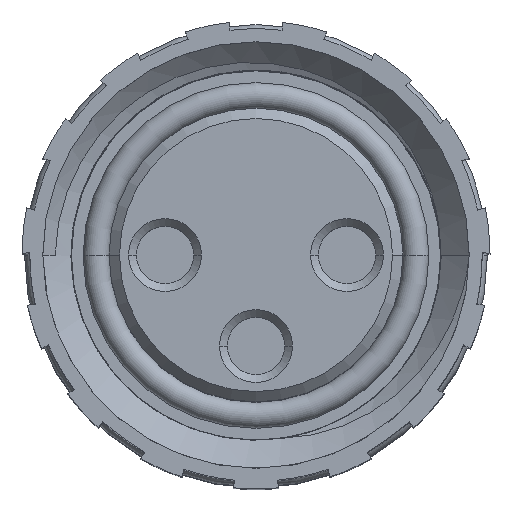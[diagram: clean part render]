
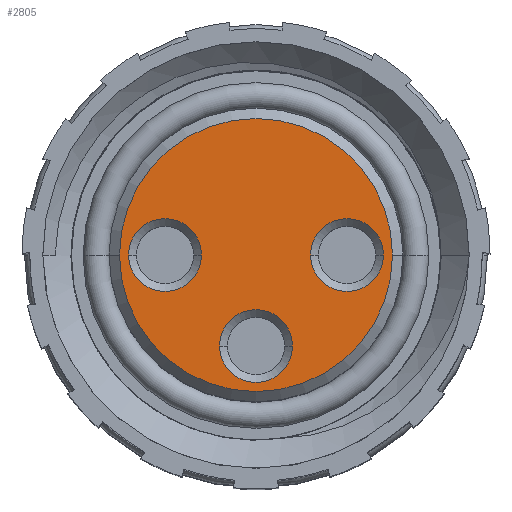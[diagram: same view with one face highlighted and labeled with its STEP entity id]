
A CAD part, top view. The second image highlights one B-rep face of the part: STEP entity #2805.
In plain terms, the highlighted planar face has unit normal (0, 0, 1).
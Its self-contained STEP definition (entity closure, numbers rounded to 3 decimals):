
#83 = FACE_OUTER_BOUND ( 'NONE', #3703, .T. ) ;
#159 = DIRECTION ( 'NONE',  ( 0., 0., 1. ) ) ;
#459 = CARTESIAN_POINT ( 'NONE',  ( 2.45, 0., -0.903 ) ) ;
#500 = CARTESIAN_POINT ( 'NONE',  ( 1.75, 0., -0.903 ) ) ;
#643 = CARTESIAN_POINT ( 'NONE',  ( 0.7, -1.75, -0.903 ) ) ;
#816 = AXIS2_PLACEMENT_3D ( 'NONE', #4985, #4442, #1674 ) ;
#950 = AXIS2_PLACEMENT_3D ( 'NONE', #500, #5825, #6675 ) ;
#986 = DIRECTION ( 'NONE',  ( -1., 0., 0. ) ) ;
#1258 = EDGE_LOOP ( 'NONE', ( #5470, #5697 ) ) ;
#1344 = DIRECTION ( 'NONE',  ( 0., 0., -1. ) ) ;
#1359 = VERTEX_POINT ( 'NONE', #6286 ) ;
#1633 = DIRECTION ( 'NONE',  ( 0., 0., 1. ) ) ;
#1674 = DIRECTION ( 'NONE',  ( -1., 0., 0. ) ) ;
#1795 = AXIS2_PLACEMENT_3D ( 'NONE', #1887, #7269, #5953 ) ;
#1887 = CARTESIAN_POINT ( 'NONE',  ( -1.75, 0., -0.903 ) ) ;
#2147 = CARTESIAN_POINT ( 'NONE',  ( 0., 0., -0.903 ) ) ;
#2263 = CARTESIAN_POINT ( 'NONE',  ( -0.7, -1.75, -0.903 ) ) ;
#2403 = CARTESIAN_POINT ( 'NONE',  ( 0., -1.75, -0.903 ) ) ;
#2683 = CARTESIAN_POINT ( 'NONE',  ( 0., 0., -0.903 ) ) ;
#2784 = ORIENTED_EDGE ( 'NONE', *, *, #4421, .F. ) ;
#2805 = ADVANCED_FACE ( 'NONE', ( #83, #4690, #7248, #7304 ), #7384, .F. ) ;
#3072 = CARTESIAN_POINT ( 'NONE',  ( 0., -1.75, -0.903 ) ) ;
#3183 = CIRCLE ( 'NONE', #4469, 2.625 ) ;
#3638 = DIRECTION ( 'NONE',  ( -1., 0., 0. ) ) ;
#3703 = EDGE_LOOP ( 'NONE', ( #7111, #7265 ) ) ;
#3873 = EDGE_CURVE ( 'NONE', #6400, #5490, #7423, .T. ) ;
#3879 = CARTESIAN_POINT ( 'NONE',  ( 0., 0., -0.903 ) ) ;
#3883 = AXIS2_PLACEMENT_3D ( 'NONE', #3072, #1633, #7669 ) ;
#3926 = CARTESIAN_POINT ( 'NONE',  ( 1.05, 0., -0.903 ) ) ;
#3927 = VERTEX_POINT ( 'NONE', #643 ) ;
#4175 = CIRCLE ( 'NONE', #3883, 0.7 ) ;
#4182 = AXIS2_PLACEMENT_3D ( 'NONE', #2147, #159, #8183 ) ;
#4321 = CIRCLE ( 'NONE', #1795, 0.7 ) ;
#4421 = EDGE_CURVE ( 'NONE', #4719, #8451, #4321, .T. ) ;
#4442 = DIRECTION ( 'NONE',  ( 0., 0., 1. ) ) ;
#4469 = AXIS2_PLACEMENT_3D ( 'NONE', #2683, #5501, #6085 ) ;
#4527 = EDGE_CURVE ( 'NONE', #1359, #5791, #3183, .T. ) ;
#4690 = FACE_BOUND ( 'NONE', #7313, .T. ) ;
#4705 = AXIS2_PLACEMENT_3D ( 'NONE', #3879, #1344, #6724 ) ;
#4719 = VERTEX_POINT ( 'NONE', #7870 ) ;
#4907 = EDGE_CURVE ( 'NONE', #3927, #6319, #4175, .T. ) ;
#4963 = EDGE_CURVE ( 'NONE', #8451, #4719, #8250, .T. ) ;
#4985 = CARTESIAN_POINT ( 'NONE',  ( 1.75, 0., -0.903 ) ) ;
#5102 = DIRECTION ( 'NONE',  ( 0., 0., 1. ) ) ;
#5353 = EDGE_LOOP ( 'NONE', ( #2784, #8001 ) ) ;
#5462 = CARTESIAN_POINT ( 'NONE',  ( 2.625, 0., -0.903 ) ) ;
#5470 = ORIENTED_EDGE ( 'NONE', *, *, #6937, .F. ) ;
#5480 = ORIENTED_EDGE ( 'NONE', *, *, #3873, .F. ) ;
#5490 = VERTEX_POINT ( 'NONE', #459 ) ;
#5501 = DIRECTION ( 'NONE',  ( 0., 0., 1. ) ) ;
#5697 = ORIENTED_EDGE ( 'NONE', *, *, #4907, .F. ) ;
#5732 = AXIS2_PLACEMENT_3D ( 'NONE', #7016, #6929, #986 ) ;
#5791 = VERTEX_POINT ( 'NONE', #5462 ) ;
#5825 = DIRECTION ( 'NONE',  ( 0., 0., 1. ) ) ;
#5953 = DIRECTION ( 'NONE',  ( -1., 0., 0. ) ) ;
#6085 = DIRECTION ( 'NONE',  ( 1., 0., 0. ) ) ;
#6286 = CARTESIAN_POINT ( 'NONE',  ( -2.625, 0., -0.903 ) ) ;
#6287 = CIRCLE ( 'NONE', #816, 0.7 ) ;
#6319 = VERTEX_POINT ( 'NONE', #2263 ) ;
#6400 = VERTEX_POINT ( 'NONE', #3926 ) ;
#6675 = DIRECTION ( 'NONE',  ( -1., 0., 0. ) ) ;
#6724 = DIRECTION ( 'NONE',  ( 1., 0., 0. ) ) ;
#6929 = DIRECTION ( 'NONE',  ( 0., 0., 1. ) ) ;
#6937 = EDGE_CURVE ( 'NONE', #6319, #3927, #7270, .T. ) ;
#7016 = CARTESIAN_POINT ( 'NONE',  ( -1.75, 0., -0.903 ) ) ;
#7057 = ORIENTED_EDGE ( 'NONE', *, *, #7341, .F. ) ;
#7111 = ORIENTED_EDGE ( 'NONE', *, *, #7785, .T. ) ;
#7248 = FACE_BOUND ( 'NONE', #5353, .T. ) ;
#7265 = ORIENTED_EDGE ( 'NONE', *, *, #4527, .T. ) ;
#7269 = DIRECTION ( 'NONE',  ( 0., 0., 1. ) ) ;
#7270 = CIRCLE ( 'NONE', #8658, 0.7 ) ;
#7304 = FACE_BOUND ( 'NONE', #1258, .T. ) ;
#7313 = EDGE_LOOP ( 'NONE', ( #5480, #7057 ) ) ;
#7341 = EDGE_CURVE ( 'NONE', #5490, #6400, #6287, .T. ) ;
#7384 = PLANE ( 'NONE',  #4705 ) ;
#7423 = CIRCLE ( 'NONE', #950, 0.7 ) ;
#7669 = DIRECTION ( 'NONE',  ( -1., 0., 0. ) ) ;
#7785 = EDGE_CURVE ( 'NONE', #5791, #1359, #8683, .T. ) ;
#7870 = CARTESIAN_POINT ( 'NONE',  ( -2.45, 0., -0.903 ) ) ;
#8001 = ORIENTED_EDGE ( 'NONE', *, *, #4963, .F. ) ;
#8183 = DIRECTION ( 'NONE',  ( 1., 0., 0. ) ) ;
#8250 = CIRCLE ( 'NONE', #5732, 0.7 ) ;
#8451 = VERTEX_POINT ( 'NONE', #8498 ) ;
#8498 = CARTESIAN_POINT ( 'NONE',  ( -1.05, 0., -0.903 ) ) ;
#8658 = AXIS2_PLACEMENT_3D ( 'NONE', #2403, #5102, #3638 ) ;
#8683 = CIRCLE ( 'NONE', #4182, 2.625 ) ;
